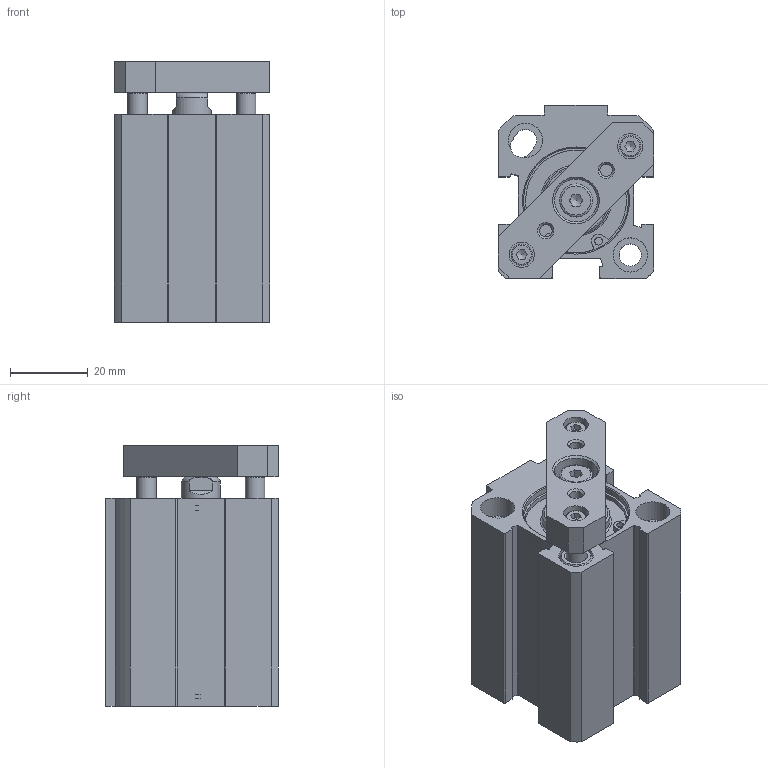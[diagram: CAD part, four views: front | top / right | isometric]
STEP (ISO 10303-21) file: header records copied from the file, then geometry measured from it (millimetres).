
FILE_DESCRIPTION(/* description */ ('Unknown'),/* implementation_level */ '2;1');
FILE_NAME(/* name */ 'FINT 25_15',/* time_stamp */ '2026-05-12T09:57:27+02:00',/* author */ ('Unknown'),/* organization */ ('Unknown'),/* preprocessor_version */ 'ST-DEVELOPER v18.102',/* originating_system */ 'Solid Edge',/* authorisation */ 'Unknown');
FILE_SCHEMA (('AUTOMOTIVE_DESIGN {1 0 10303 214 3 1 1}'));
Length unit declared in the file: millimetre
Products named in the file (7): FINT 25_15; Kit_2; Profilrohr; Platte; Führungsstange; Kolbenstange; Kit_1
Assembly tree (7 placements, depth 2):
  FINT 25_15
    Kit_2
    Profilrohr
    Platte
    Führungsstange  x2
    Kolbenstange
    Kit_1
Bounding box: 40 x 44.5 x 67 mm (x, y, z)
Volume: 70505.1 mm3; surface area: 38315 mm2
Topology: 9 solids, 9 shells, 287 faces, 682 edges, 440 vertices
Faces by surface type: plane 134, cylinder 98, cone 43, torus 12
Full cylindrical faces by diameter (mm): 1.6 x2, 2 x4, 2.459 x2, 3 x2, 3.242 x2, 3.5 x2, 4.13 x1, 5 x4, 5.25 x1, 5.5 x2, 5.7 x2, 6.5 x2, 8.5 x1, 8.566 x4, 8.7 x2, 8.8 x3, 9 x1, 10 x1, 10.48 x1, 11 x1, 11.4 x1, 17.5 x2, 25 x2, 26.9 x4, 27 x2, 28.4 x2
Entity records: 9255 total; most frequent: CARTESIAN_POINT 1352, DIRECTION 1332, ORIENTED_EDGE 1058, AXIS2_PLACEMENT_3D 540, EDGE_CURVE 529, FACE_BOUND 437, EDGE_LOOP 432, VERTEX_POINT 400
